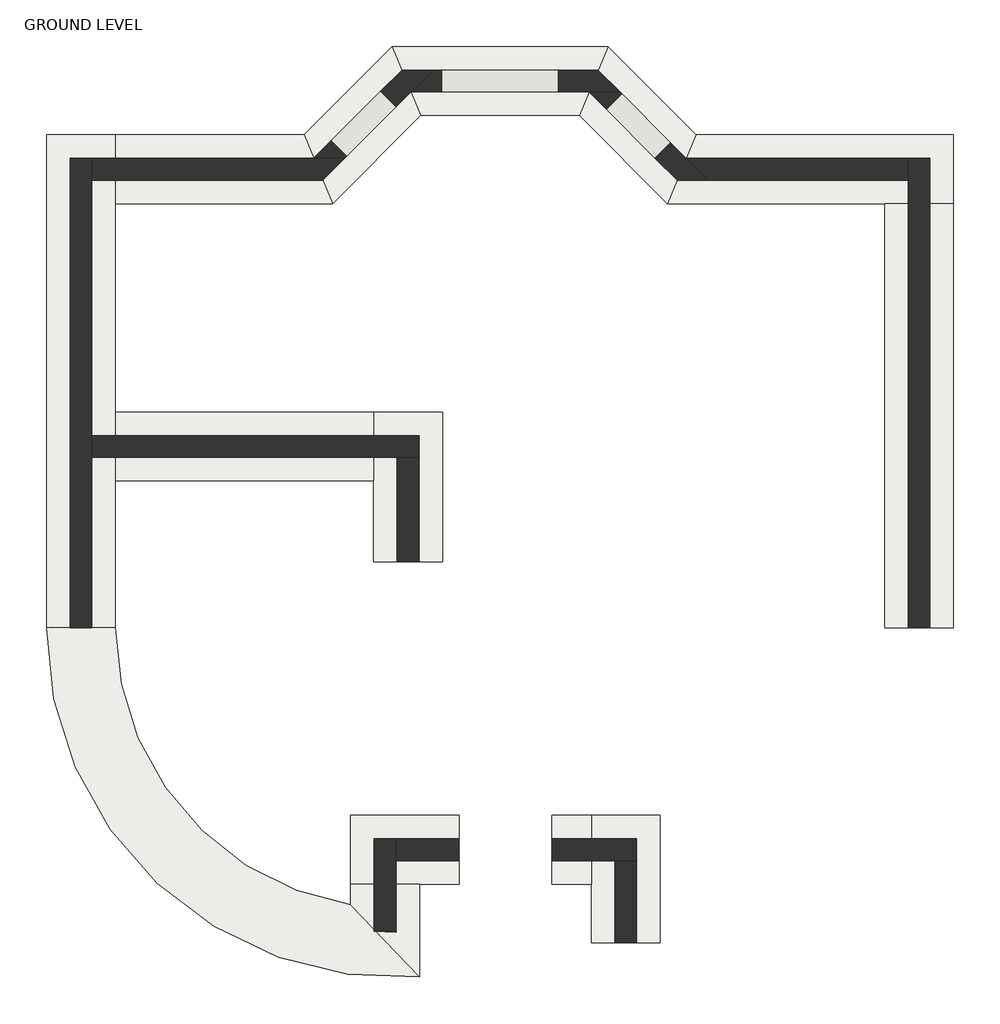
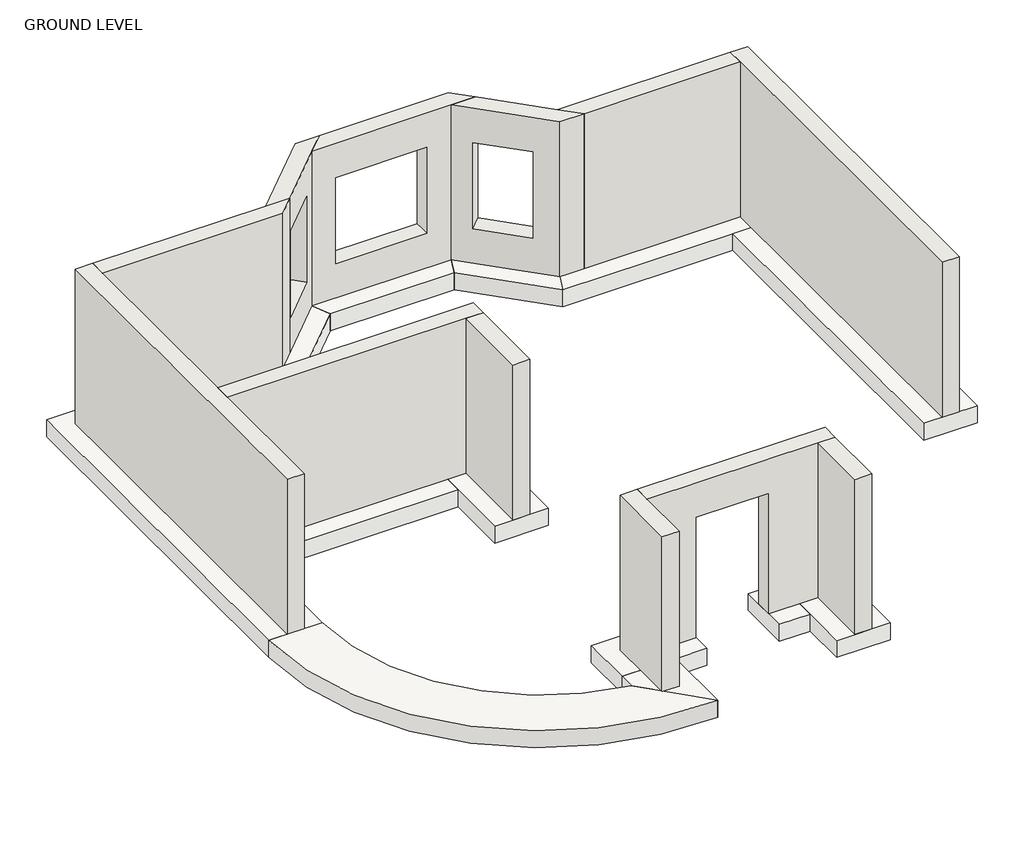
# One storey, incomplete: 13 footings, 12 walls.
"""IFC4 building model written with IfcOpenShell, lengths in millimetres."""

from ifc_helpers import new_model, si_unit, point, frame, frame_2d, origin, origin_with_axes, place, context, project, spatial, polyline, circle_curve, trimmed, segment, composite_curve, outline, extrude, faceted_brep, element, save
from ifc_brep_helpers import plane_surface, cylinder_surface, advanced_brep

model = new_model("IFC4")

# Units and contexts
model_context = context("Model", 3, world=origin())
ifc_project = project(units=[si_unit("LENGTHUNIT", "METRE", prefix="MILLI")], contexts=[model_context])

# Site, building, storey
site = spatial("IfcSite", under=ifc_project)
building = spatial("IfcBuilding", under=site)
storey = spatial("IfcBuildingStorey", under=building, Name="GROUND LEVEL", Elevation=0.0)

# Footings
placement = place(None, origin())
element("IfcFooting", 1, ObjectType="Bearing Footing - 900 x 300", at=placement, inside=storey, context=model_context, shape_type="Brep", body=[
    faceted_brep([(-15059.6746328, -4179.4251123, 0.0), (-15059.6746328, -2260.7876123, 0.0), (-15059.6746328, -1360.7876123, 0.0), (-15059.6746328, 1364.9748877, 0.0), (-15059.6746328, 2264.9748877, 0.0), (-15959.6746328, 2264.9748877, 0.0), (-15959.6746328, -4179.4251123, 0.0), (-15959.6746328, -4179.4251123, -300.0), (-15959.6746328, 2264.9748877, -300.0), (-15059.6746328, -4179.4251123, -300.0), (-15059.6746328, 2264.9748877, -300.0), (-15059.6746328, 1364.9748877, -300.0), (-15059.6746328, -1360.7876123, -300.0), (-15059.6746328, -2260.7876123, -300.0)], [[[0, 1, 2, 3, 4, 5, 6]], [[7, 6, 5, 8]], [[9, 7, 8, 10, 11, 12, 13]], [[0, 9, 13, 12, 11, 10, 4, 3, 2, 1]], [[5, 4, 10, 8]], [[0, 6, 7, 9]]]),
])
element("IfcFooting", 2, ObjectType="Bearing Footing - 900 x 300", at=placement, inside=storey, context=model_context, shape_type="SweptSolid", body=[
    extrude(outline(polyline([(-12592.0649732, 2264.9748877), (-12219.2727671, 1364.9748877), (-15059.6746328, 1364.9748877), (-15059.6746328, 2264.9748877), (-12592.0649732, 2264.9748877)])), frame((0.0, 0.0, -300.0), z_axis=(0.0, 0.0, 1.0), x_axis=(1.0, 0.0, 0.0)), (0.0, 0.0, 1.0), 300.0),
])
element("IfcFooting", 3, ObjectType="Bearing Footing - 900 x 300", at=placement, inside=storey, context=model_context, shape_type="SweptSolid", body=[
    extrude(outline(polyline([(-11063.0647915, 2521.1828633), (-12219.2727671, 1364.9748877), (-12592.0649732, 2264.9748877), (-11435.8569976, 3421.1828633), (-11063.0647915, 2521.1828633)])), frame((0.0, 0.0, -300.0), z_axis=(0.0, 0.0, 1.0), x_axis=(1.0, 0.0, 0.0)), (0.0, 0.0, 1.0), 300.0),
])
element("IfcFooting", 4, ObjectType="Bearing Footing - 900 x 300", at=placement, inside=storey, context=model_context, shape_type="SweptSolid", body=[
    extrude(outline(polyline([(-11435.8569976, 3421.1828633), (-8616.0263169, 3421.1828633), (-8988.818523, 2521.1828633), (-11063.0647915, 2521.1828633), (-11435.8569976, 3421.1828633)])), frame((0.0, 0.0, -300.0), z_axis=(0.0, 0.0, 1.0), x_axis=(1.0, 0.0, 0.0)), (0.0, 0.0, 1.0), 300.0),
])
element("IfcFooting", 5, ObjectType="Bearing Footing - 900 x 300", at=placement, inside=storey, context=model_context, shape_type="SweptSolid", body=[
    extrude(outline(polyline([(-8616.0263169, 3421.1828633), (-7459.8183413, 2264.9748877), (-7832.6105475, 1364.9748877), (-8988.818523, 2521.1828633), (-8616.0263169, 3421.1828633)])), frame((0.0, 0.0, -300.0), z_axis=(0.0, 0.0, 1.0), x_axis=(1.0, 0.0, 0.0)), (0.0, 0.0, 1.0), 300.0),
])
element("IfcFooting", 6, ObjectType="Bearing Footing - 900 x 300", at=placement, inside=storey, context=model_context, shape_type="Brep", body=[
    faceted_brep([(-7832.6105475, 1364.9748877, 0.0), (-4992.2086817, 1364.9748877, 0.0), (-4092.2086817, 1364.9748877, 0.0), (-4092.2086817, 2264.9748877, 0.0), (-7459.8183413, 2264.9748877, 0.0), (-7832.6105475, 1364.9748877, -300.0), (-4992.2086817, 1364.9748877, -300.0), (-4092.2086817, 1364.9748877, -300.0), (-7459.8183413, 2264.9748877, -300.0), (-4092.2086817, 2264.9748877, -300.0)], [[[0, 1, 2, 3, 4]], [[2, 1, 0, 5, 6, 7]], [[7, 6, 5, 8, 9]], [[3, 9, 8, 4]], [[0, 4, 8, 5]], [[3, 2, 7, 9]]]),
])
element("IfcFooting", 7, ObjectType="Bearing Footing - 900 x 300", at=placement, inside=storey, context=model_context, shape_type="SweptSolid", body=[
    extrude(outline(polyline([(-4092.2086817, -4179.4251123), (-4992.2086817, -4179.4251123), (-4992.2086817, 1364.9748877), (-4092.2086817, 1364.9748877), (-4092.2086817, -4179.4251123)])), frame((0.0, 0.0, -300.0), z_axis=(0.0, 0.0, 1.0), x_axis=(1.0, 0.0, 0.0)), (0.0, 0.0, 1.0), 300.0),
])
element("IfcFooting", 8, ObjectType="Bearing Footing - 900 x 300", at=placement, inside=storey, context=model_context, shape_type="Brep", body=[
    faceted_brep([(-7930.8074453, -8301.2696435, 0.0), (-8830.8074453, -8301.2696435, 0.0), (-8830.8074453, -8301.2696435, -300.0), (-7930.8074453, -8301.2696435, -300.0), (-8830.8074453, -6632.0696435, 0.0), (-8830.8074453, -7532.0696435, 0.0), (-7930.8074453, -6632.0696435, 0.0), (-7930.8074453, -6632.0696435, -300.0), (-8830.8074453, -6632.0696435, -300.0), (-8830.8074453, -7532.0696435, -300.0)], [[[0, 1, 2, 3]], [[4, 5, 1, 0, 6]], [[7, 6, 0, 3]], [[8, 7, 3, 2, 9]], [[4, 8, 9, 2, 1, 5]], [[4, 6, 7, 8]]]),
])
element("IfcFooting", 9, ObjectType="Bearing Footing - 900 x 300", at=placement, inside=storey, context=model_context, shape_type="Brep", body=[
    faceted_brep([(-10564.1160391, -6632.0696435, -300.0), (-10564.1160391, -6632.0696435, 0.0), (-10564.1160391, -7532.0696435, 0.0), (-10564.1160391, -7532.0696435, -300.0), (-11978.2246328, -6632.0696435, 0.0), (-11978.2246328, -7532.0696435, 0.0), (-11078.2246328, -7532.0696435, 0.0), (-11978.2246328, -6632.0696435, -300.0), (-11078.2246328, -7532.0696435, -300.0), (-11978.2246328, -7532.0696435, -300.0)], [[[0, 1, 2, 3]], [[1, 4, 5, 6, 2]], [[1, 0, 7, 4]], [[0, 3, 8, 9, 7]], [[3, 2, 6, 5, 9, 8]], [[5, 4, 7, 9]]]),
    faceted_brep([(-9344.9160391, -6632.0696435, 0.0), (-9344.9160391, -6632.0696435, -300.0), (-9344.9160391, -7532.0696435, -300.0), (-9344.9160391, -7532.0696435, 0.0), (-8830.8074453, -7532.0696435, 0.0), (-8830.8074453, -6632.0696435, 0.0), (-8830.8074453, -6632.0696435, -300.0), (-8830.8074453, -7532.0696435, -300.0)], [[[0, 1, 2, 3]], [[0, 3, 4, 5]], [[1, 0, 5, 6]], [[2, 1, 6, 7]], [[3, 2, 7, 4]], [[5, 4, 7, 6]]]),
])
element("IfcFooting", 10, ObjectType="Bearing Footing - 900 x 300", at=placement, inside=storey, context=model_context, shape_type="SweptSolid", body=[
    extrude(outline(polyline([(-11078.2246328, -8743.4281184), (-11978.2246328, -7805.6026369), (-11978.2246328, -7532.0696435), (-11078.2246328, -7532.0696435), (-11078.2246328, -8743.4281184)])), frame((0.0, 0.0, -300.0), z_axis=(0.0, 0.0, 1.0), x_axis=(1.0, 0.0, 0.0)), (0.0, 0.0, 1.0), 300.0),
])
element("IfcFooting", 11, ObjectType="Bearing Footing - 900 x 300", at=placement, inside=storey, context=model_context, shape_type="SweptSolid", body=[
    extrude(outline(composite_curve([segment(trimmed(circle_curve(frame_2d((-11385.3496328, -4179.4251123)), 3674.325), [point((-15059.6746328, -4179.4251123))], [point((-11978.2246328, -7805.6026369))], True, "CARTESIAN"), True, "CONTINUOUS"), segment(polyline([(-11978.2246328, -7805.6026369), (-11078.2246328, -8743.4281184)]), True, "CONTINUOUS"), segment(trimmed(circle_curve(frame_2d((-11385.3496328, -4179.4251123)), 4574.325), [point((-11078.2246328, -8743.4281184))], [point((-15959.6746328, -4179.4251123))], False, "CARTESIAN"), True, "CONTINUOUS"), segment(polyline([(-15959.6746328, -4179.4251123), (-15059.6746328, -4179.4251123)]), True, "CONTINUOUS")], self_intersect=False)), frame((0.0, 0.0, -300.0), z_axis=(0.0, 0.0, 1.0), x_axis=(1.0, 0.0, 0.0)), (0.0, 0.0, 1.0), 300.0),
])
element("IfcFooting", 12, ObjectType="Bearing Footing - 900 x 300", at=placement, inside=storey, context=model_context, shape_type="Brep", body=[
    faceted_brep([(-10779.5761953, -3315.7376123, 0.0), (-11679.5761953, -3315.7376123, 0.0), (-11679.5761953, -3315.7376123, -300.0), (-10779.5761953, -3315.7376123, -300.0), (-11679.5761953, -1360.7876123, 0.0), (-11679.5761953, -2260.7876123, 0.0), (-10779.5761953, -1360.7876123, 0.0), (-10779.5761953, -1360.7876123, -300.0), (-11679.5761953, -1360.7876123, -300.0), (-11679.5761953, -2260.7876123, -300.0)], [[[0, 1, 2, 3]], [[4, 5, 1, 0, 6]], [[7, 6, 0, 3]], [[8, 7, 3, 2, 9]], [[4, 8, 9, 2, 1, 5]], [[4, 6, 7, 8]]]),
])
element("IfcFooting", 13, ObjectType="Bearing Footing - 900 x 300", at=placement, inside=storey, context=model_context, shape_type="SweptSolid", body=[
    extrude(outline(polyline([(-15059.6746328, -2260.7876123), (-15059.6746328, -1360.7876123), (-11679.5761953, -1360.7876123), (-11679.5761953, -2260.7876123), (-15059.6746328, -2260.7876123)])), frame((0.0, 0.0, -300.0), z_axis=(0.0, 0.0, 1.0), x_axis=(1.0, 0.0, 0.0)), (0.0, 0.0, 1.0), 300.0),
])

# Walls
element("IfcWall", 14, ObjectType="Generic- NUDURA 152mm Form Unit", at=placement, inside=storey, context=model_context, shape_type="Brep", body=[
    faceted_brep([(-15366.7996328, -4179.4251123, 0.0), (-15366.7996328, -1953.6626123, 0.0), (-15366.7996328, -1667.9126123, 0.0), (-15366.7996328, 1672.0998877, 0.0), (-15366.7996328, 1957.8498877, 0.0), (-15366.7996328, 1957.8498877, 2743.2), (-15366.7996328, 1672.0998877, 2743.2), (-15366.7996328, -1667.9126123, 2743.2), (-15366.7996328, -1953.6626123, 2743.2), (-15366.7996328, -4179.4251123, 2743.2), (-15652.5496328, -4179.4251123, 0.0), (-15652.5496328, -4179.4251123, 2743.2), (-15652.5496328, 1957.8498877, 2743.2), (-15652.5496328, 1957.8498877, 0.0)], [[[0, 1, 2, 3, 4, 5, 6, 7, 8, 9]], [[10, 11, 12, 13]], [[4, 3, 2, 1, 0, 10, 13]], [[9, 8, 7, 6, 5, 12, 11]], [[0, 9, 11, 10]], [[5, 4, 13, 12]]]),
])
element("IfcWall", 15, ObjectType="Generic- NUDURA 152mm Form Unit", at=placement, inside=storey, context=model_context, shape_type="Brep", body=[
    faceted_brep([(-15366.7996328, 1672.0998877, 0.0), (-12346.4881074, 1672.0998877, 0.0), (-12346.4881074, 1672.0998877, 2743.2), (-15366.7996328, 1672.0998877, 2743.2), (-15366.7996328, 1957.8498877, 0.0), (-15366.7996328, 1957.8498877, 2743.2), (-12464.8496328, 1957.8498877, 2743.2), (-12060.7381074, 1957.8498877, 2743.2), (-12060.7381074, 1957.8498877, 0.0), (-12464.8496328, 1957.8498877, 0.0)], [[[0, 1, 2, 3]], [[4, 5, 6, 7, 8, 9]], [[1, 0, 4, 9, 8]], [[3, 2, 7, 6, 5]], [[0, 3, 5, 4]], [[2, 1, 8, 7]]]),
])
element("IfcWall", 16, ObjectType="Generic- NUDURA 152mm Form Unit", at=placement, inside=storey, context=model_context, shape_type="Brep", body=[
    faceted_brep([(-12060.7381074, 1957.8498877, 0.0), (-11190.2801318, 2828.3078633, 0.0), (-10904.5301318, 3114.0578633, 0.0), (-10904.5301318, 3114.0578633, 2743.2), (-11190.2801318, 2828.3078633, 2743.2), (-12060.7381074, 1957.8498877, 2743.2), (-12033.0394145, 1985.5485806, 2133.6), (-11386.4609738, 2632.1270213, 2133.6), (-11386.4609738, 2632.1270213, 609.6), (-12033.0394145, 1985.5485806, 609.6), (-11308.6416573, 3114.0578633, 0.0), (-12464.8496328, 1957.8498877, 0.0), (-12464.8496328, 1957.8498877, 2743.2), (-11308.6416573, 3114.0578633, 2743.2), (-11588.5167365, 2834.182784, 2133.6), (-12235.0951772, 2187.6043433, 2133.6), (-12235.0951772, 2187.6043433, 609.6), (-11588.5167365, 2834.182784, 609.6)], [[[0, 1, 2, 3, 4, 5], [6, 7, 8, 9]], [[10, 11, 12, 13], [14, 15, 16, 17]], [[2, 1, 0, 11, 10]], [[5, 4, 3, 13, 12]], [[0, 5, 12, 11]], [[3, 2, 10, 13]], [[6, 15, 14, 7]], [[8, 17, 16, 9]], [[15, 6, 9, 16]], [[7, 14, 17, 8]]]),
])
element("IfcWall", 17, ObjectType="Generic- NUDURA 152mm Form Unit", at=placement, inside=storey, context=model_context, shape_type="Brep", body=[
    faceted_brep([(-11190.2801318, 2828.3078633, 0.0), (-8861.6031827, 2828.3078633, 0.0), (-8457.4916573, 2828.3078633, 0.0), (-8457.4916573, 2828.3078633, 2743.2), (-8861.6031827, 2828.3078633, 2743.2), (-11190.2801318, 2828.3078633, 2743.2), (-10787.9416573, 2828.3078633, 2133.6), (-9263.9416573, 2828.3078633, 2133.6), (-9263.9416573, 2828.3078633, 609.6), (-10787.9416573, 2828.3078633, 609.6), (-8743.2416573, 3114.0578633, 0.0), (-10904.5301318, 3114.0578633, 0.0), (-10904.5301318, 3114.0578633, 2743.2), (-8743.2416573, 3114.0578633, 2743.2), (-9263.9416573, 3114.0578633, 2133.6), (-10787.9416573, 3114.0578633, 2133.6), (-10787.9416573, 3114.0578633, 609.6), (-9263.9416573, 3114.0578633, 609.6)], [[[0, 1, 2, 3, 4, 5], [6, 7, 8, 9]], [[10, 11, 12, 13], [14, 15, 16, 17]], [[2, 1, 0, 11, 10]], [[5, 4, 3, 13, 12]], [[0, 5, 12, 11]], [[6, 15, 14, 7]], [[8, 17, 16, 9]], [[15, 6, 9, 16]], [[7, 14, 17, 8]], [[3, 2, 10, 13]]]),
])
element("IfcWall", 18, ObjectType="Generic- NUDURA 152mm Form Unit", at=placement, inside=storey, context=model_context, shape_type="Brep", body=[
    faceted_brep([(-4399.3336817, -4179.4251123, 0.0), (-4399.3336817, 1957.8498877, 0.0), (-4399.3336817, 1957.8498877, 2743.2), (-4399.3336817, -4179.4251123, 2743.2), (-4685.0836817, -4179.4251123, 0.0), (-4685.0836817, -4179.4251123, 2743.2), (-4685.0836817, 1672.0998877, 2743.2), (-4685.0836817, 1957.8498877, 2743.2), (-4685.0836817, 1957.8498877, 0.0), (-4685.0836817, 1672.0998877, 0.0)], [[[0, 1, 2, 3]], [[4, 5, 6, 7, 8, 9]], [[1, 0, 4, 9, 8]], [[3, 2, 7, 6, 5]], [[0, 3, 5, 4]], [[2, 1, 8, 7]]]),
])
element("IfcWall", 19, ObjectType="Generic- NUDURA 152mm Form Unit", at=placement, inside=storey, context=model_context, shape_type="SweptSolid", body=[
    extrude(outline(polyline([(-7587.0336817, 1957.8498877), (-4685.0836817, 1957.8498877), (-4685.0836817, 1672.0998877), (-7301.2836817, 1672.0998877), (-7587.0336817, 1957.8498877)])), origin_with_axes(), (0.0, 0.0, 1.0), 2743.2),
])
element("IfcWall", 20, ObjectType="Generic- NUDURA 152mm Form Unit", at=placement, inside=storey, context=model_context, shape_type="Brep", body=[
    faceted_brep([(-7301.2836817, 1672.0998877, 0.0), (-7587.0336817, 1957.8498877, 0.0), (-8457.4916573, 2828.3078633, 0.0), (-8457.4916573, 2828.3078633, 2743.2), (-7587.0336817, 1957.8498877, 2743.2), (-7301.2836817, 1672.0998877, 2743.2), (-7793.5950349, 2164.4112409, 2133.6), (-8429.9911379, 2800.807344, 2133.6), (-8429.9911379, 2800.807344, 609.6), (-7793.5950349, 2164.4112409, 609.6), (-8861.6031827, 2828.3078633, 0.0), (-7705.3952071, 1672.0998877, 0.0), (-7705.3952071, 1672.0998877, 2743.2), (-8861.6031827, 2828.3078633, 2743.2), (-8632.0469006, 2598.7515813, 2133.6), (-7995.6507976, 1962.3554782, 2133.6), (-7995.6507976, 1962.3554782, 609.6), (-8632.0469006, 2598.7515813, 609.6)], [[[0, 1, 2, 3, 4, 5], [6, 7, 8, 9]], [[10, 11, 12, 13], [14, 15, 16, 17]], [[2, 1, 0, 11, 10]], [[5, 4, 3, 13, 12]], [[6, 15, 14, 7]], [[8, 17, 16, 9]], [[15, 6, 9, 16]], [[7, 14, 17, 8]], [[0, 5, 12, 11]], [[3, 2, 10, 13]]]),
])
element("IfcWall", 21, ObjectType="Generic- NUDURA 152mm Form Unit", at=placement, inside=storey, context=model_context, shape_type="AdvancedBrep", body=[
    advanced_brep(
    [(-11385.3496328, -8160.8751123, 0.0), (-11385.3496328, -7224.9446435, 0.0), (-11385.3496328, -6939.1946435, 0.0), (-11385.3496328, -6939.1946435, 2743.2), (-11385.3496328, -7224.9446435, 2743.2), (-11385.3496328, -8160.8751123, 2743.2), (-11671.0996328, -8150.6076868, 0.0), (-11671.0996328, -8150.6076868, 2743.2), (-11671.0996328, -6939.1946435, 2743.2), (-11671.0996328, -6939.1946435, 0.0)],
    [
        (0, 1),
        (1, 2),
        (2, 3),
        (3, 4),
        (4, 5),
        (5, 0),
        (6, 7),
        (7, 8),
        (8, 9),
        (9, 6),
        (0, 6, circle_curve(frame((-11385.3496328, -4179.4251123, 0.0), z_axis=(0.0, 0.0, -1.0), x_axis=(1.0, 0.0, 0.0)), 3981.45)),
        (9, 2),
        (3, 8),
        (7, 5, circle_curve(frame((-11385.3496328, -4179.4251123, 2743.2), z_axis=(0.0, 0.0, 1.0), x_axis=(1.0, 0.0, 0.0)), 3981.45)),
    ],
    [
        plane_surface(frame((-11385.3496328, -8446.6251123, 0.0), z_axis=(1.0, 0.0, 0.0), x_axis=(0.0, 1.0, 0.0))),
        plane_surface(frame((-11671.0996328, -8446.6251123, 0.0), z_axis=(-1.0, 0.0, 0.0), x_axis=(0.0, -1.0, 0.0))),
        plane_surface(frame((-11385.3496328, -8301.2746292, 0.0), z_axis=(0.0, 0.0, -1.0), x_axis=(-1.0, 0.0, 0.0))),
        plane_surface(frame((-11385.3496328, -7082.0696435, 2743.2), z_axis=(0.0, 0.0, 1.0), x_axis=(-1.0, 0.0, 0.0))),
        cylinder_surface(frame((-11385.3496328, -4179.4251123, 0.0), z_axis=(0.0, 0.0, -1.0), x_axis=(1.0, 0.0, 0.0)), 3981.45),
        plane_surface(frame((-11385.3496328, -6939.1946435, 0.0), z_axis=(0.0, 1.0, 0.0), x_axis=(-1.0, 0.0, 0.0))),
    ],
    [
        (0, [[1, 2, 3, 4, 5, 6]]),
        (1, [[7, 8, 9, 10]]),
        (2, [[-2, -1, 11, -10, 12]]),
        (3, [[-5, -4, 13, -8, 14]]),
        (4, [[-6, -14, -7, -11]]),
        (5, [[-3, -12, -9, -13]]),
    ],
),
])
element("IfcWall", 22, ObjectType="Generic- NUDURA 152mm Form Unit", at=placement, inside=storey, context=model_context, shape_type="Brep", body=[
    faceted_brep([(-8237.9324453, -7224.9446435, 0.0), (-8237.9324453, -7224.9446435, 2743.2), (-8523.6824453, -7224.9446435, 2743.2), (-11385.3496328, -7224.9446435, 2743.2), (-11385.3496328, -7224.9446435, 0.0), (-10564.1160391, -7224.9446435, 0.0), (-10564.1160391, -7224.9446435, 2133.6), (-9344.9160391, -7224.9446435, 2133.6), (-9344.9160391, -7224.9446435, 0.0), (-8523.6824453, -7224.9446435, 0.0), (-8237.9324453, -6939.1946435, 2743.2), (-8237.9324453, -6939.1946435, 0.0), (-9344.9160391, -6939.1946435, 0.0), (-9344.9160391, -6939.1946435, 2133.6), (-10564.1160391, -6939.1946435, 2133.6), (-10564.1160391, -6939.1946435, 0.0), (-11385.3496328, -6939.1946435, 0.0), (-11385.3496328, -6939.1946435, 2743.2)], [[[0, 1, 2, 3, 4, 5, 6, 7, 8, 9]], [[10, 11, 12, 13, 14, 15, 16, 17]], [[4, 16, 15, 5]], [[11, 0, 9, 8, 12]], [[3, 2, 1, 10, 17]], [[4, 3, 17, 16]], [[1, 0, 11, 10]], [[6, 14, 13, 7]], [[14, 6, 5, 15]], [[7, 13, 12, 8]]]),
])
element("IfcWall", 23, ObjectType="Generic- NUDURA 152mm Form Unit", at=placement, inside=storey, context=model_context, shape_type="SweptSolid", body=[
    extrude(outline(polyline([(-8523.6824453, -8301.2696435), (-8523.6824453, -7224.9446435), (-8237.9324453, -7224.9446435), (-8237.9324453, -8301.2696435), (-8523.6824453, -8301.2696435)])), origin_with_axes(), (0.0, 0.0, 1.0), 2743.2),
])
element("IfcWall", 24, ObjectType="Generic- NUDURA 152mm Form Unit", at=placement, inside=storey, context=model_context, shape_type="Brep", body=[
    faceted_brep([(-15366.7996328, -1953.6626123, 0.0), (-11372.4511953, -1953.6626123, 0.0), (-11086.7011953, -1953.6626123, 0.0), (-11086.7011953, -1953.6626123, 2743.2), (-11372.4511953, -1953.6626123, 2743.2), (-15366.7996328, -1953.6626123, 2743.2), (-15366.7996328, -1667.9126123, 0.0), (-15366.7996328, -1667.9126123, 2743.2), (-11086.7011953, -1667.9126123, 2743.2), (-11086.7011953, -1667.9126123, 0.0)], [[[0, 1, 2, 3, 4, 5]], [[6, 7, 8, 9]], [[2, 1, 0, 6, 9]], [[5, 4, 3, 8, 7]], [[0, 5, 7, 6]], [[3, 2, 9, 8]]]),
])
element("IfcWall", 25, ObjectType="Generic- NUDURA 152mm Form Unit", at=placement, inside=storey, context=model_context, shape_type="SweptSolid", body=[
    extrude(outline(polyline([(-11372.4511953, -3315.7376123), (-11372.4511953, -1953.6626123), (-11086.7011953, -1953.6626123), (-11086.7011953, -3315.7376123), (-11372.4511953, -3315.7376123)])), origin_with_axes(), (0.0, 0.0, 1.0), 2743.2),
])

save(model, "model.ifc")
